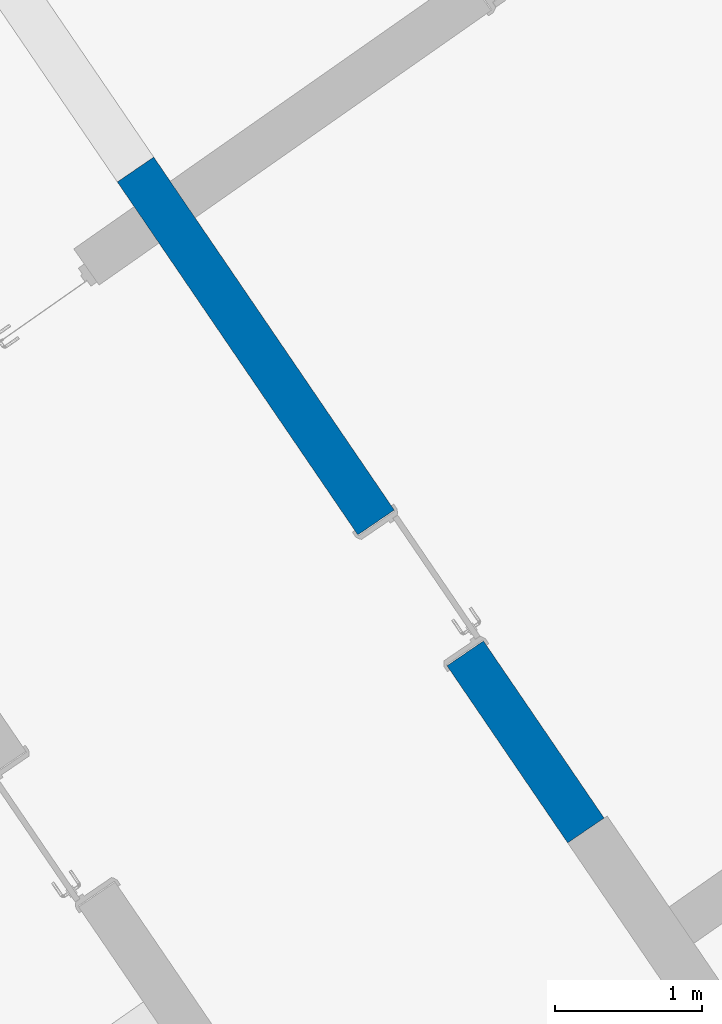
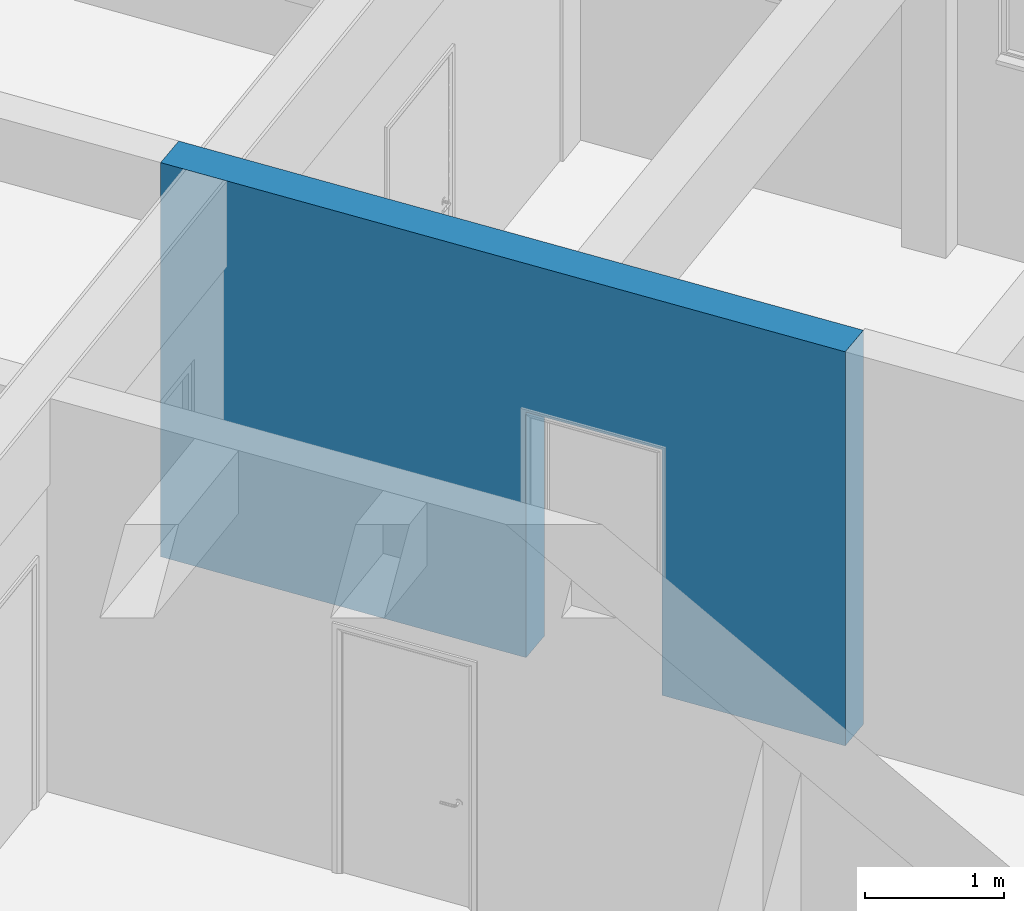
# One storey, part 63 of 112: 1 wall, 1 opening.
"""IFC2X3 building model written with IfcOpenShell, lengths in millimetres."""

from ifc_helpers import new_model, entity, si_unit, converted_unit, derived_unit, direction, frame, frame_2d, origin, place, context, subcontext, project, spatial, rectangle, extrude, material, layer, layer_set, layer_usage, type_object, element, save


model = new_model("IFC2X3")

# Units and contexts
model_context = context("Model", 3, precision=0.01, world=origin(), true_north=direction((6.123031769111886e-17, 1.0)))
body_context = subcontext(model_context, "Body", "Model", "MODEL_VIEW")
ifc_project = project(units=[si_unit("LENGTHUNIT", "METRE", prefix="MILLI"), si_unit("AREAUNIT", "SQUARE_METRE"), si_unit("VOLUMEUNIT", "CUBIC_METRE"), converted_unit("PLANEANGLEUNIT", "DEGREE", entity("IfcRatioMeasure", 0.017453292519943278), si_unit("PLANEANGLEUNIT", "RADIAN"), dimensions=[0, 0, 0, 0, 0, 0, 0]), si_unit("MASSUNIT", "GRAM", prefix="KILO"), derived_unit("MASSDENSITYUNIT", [(si_unit("MASSUNIT", "GRAM", prefix="KILO"), 1), (si_unit("LENGTHUNIT", "METRE"), -3)]), derived_unit("MOMENTOFINERTIAUNIT", [(si_unit("LENGTHUNIT", "METRE"), 4)]), si_unit("TIMEUNIT", "SECOND"), si_unit("FREQUENCYUNIT", "HERTZ"), si_unit("THERMODYNAMICTEMPERATUREUNIT", "DEGREE_CELSIUS"), derived_unit("THERMALTRANSMITTANCEUNIT", [(si_unit("MASSUNIT", "GRAM", prefix="KILO"), 1), (si_unit("THERMODYNAMICTEMPERATUREUNIT", "KELVIN"), -1), (si_unit("TIMEUNIT", "SECOND"), -3)]), derived_unit("THERMALCONDUCTANCEUNIT", [(si_unit("MASSUNIT", "GRAM", prefix="KILO"), 1), (si_unit("LENGTHUNIT", "METRE"), 1), (si_unit("THERMODYNAMICTEMPERATUREUNIT", "KELVIN"), -1), (si_unit("TIMEUNIT", "SECOND"), -3)]), derived_unit("VOLUMETRICFLOWRATEUNIT", [(si_unit("LENGTHUNIT", "METRE"), 3), (si_unit("TIMEUNIT", "SECOND"), -1)]), derived_unit("MASSFLOWRATEUNIT", [(si_unit("MASSUNIT", "GRAM", prefix="KILO"), 1), (si_unit("TIMEUNIT", "SECOND"), -1)]), derived_unit("ROTATIONALFREQUENCYUNIT", [(si_unit("TIMEUNIT", "SECOND"), -1)]), si_unit("ELECTRICCURRENTUNIT", "AMPERE"), si_unit("ELECTRICVOLTAGEUNIT", "VOLT"), si_unit("POWERUNIT", "WATT"), converted_unit("FORCEUNIT", "KIP", entity("IfcRatioMeasure", 2.088543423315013e-05), si_unit("FORCEUNIT", "NEWTON"), dimensions=[1, 1, -2, 0, 0, 0, 0]), si_unit("ILLUMINANCEUNIT", "LUX"), si_unit("LUMINOUSFLUXUNIT", "LUMEN"), si_unit("LUMINOUSINTENSITYUNIT", "CANDELA"), derived_unit("USERDEFINED", [(si_unit("MASSUNIT", "GRAM", prefix="KILO"), -1), (si_unit("LENGTHUNIT", "METRE"), -2), (si_unit("TIMEUNIT", "SECOND"), 3), (si_unit("LUMINOUSFLUXUNIT", "LUMEN"), 1)]), derived_unit("USERDEFINED", [(si_unit("MASSUNIT", "GRAM", prefix="KILO"), 1), (si_unit("LENGTHUNIT", "METRE"), 3), (si_unit("TIMEUNIT", "SECOND"), -3), (si_unit("ELECTRICCURRENTUNIT", "AMPERE"), -2)]), derived_unit("USERDEFINED", [(si_unit("LENGTHUNIT", "METRE"), 2), (si_unit("TIMEUNIT", "SECOND"), -2)]), derived_unit("SOUNDPOWERUNIT", [(si_unit("MASSUNIT", "GRAM", prefix="KILO"), 1), (si_unit("LENGTHUNIT", "METRE"), 2), (si_unit("TIMEUNIT", "SECOND"), -3)]), derived_unit("SOUNDPRESSUREUNIT", [(si_unit("MASSUNIT", "GRAM", prefix="KILO"), 1), (si_unit("LENGTHUNIT", "METRE"), -1), (si_unit("TIMEUNIT", "SECOND"), -2)]), derived_unit("LINEARVELOCITYUNIT", [(si_unit("LENGTHUNIT", "METRE"), 1), (si_unit("TIMEUNIT", "SECOND"), -1)]), si_unit("PRESSUREUNIT", "PASCAL"), derived_unit("USERDEFINED", [(si_unit("LENGTHUNIT", "METRE"), -2), (si_unit("MASSUNIT", "GRAM", prefix="KILO"), 1), (si_unit("TIMEUNIT", "SECOND"), -2)]), derived_unit("LINEARFORCEUNIT", [(si_unit("MASSUNIT", "GRAM", prefix="KILO"), 1), (si_unit("LENGTHUNIT", "METRE"), 1), (si_unit("TIMEUNIT", "SECOND"), -2), (si_unit("LENGTHUNIT", "METRE"), -1)]), derived_unit("PLANARFORCEUNIT", [(si_unit("MASSUNIT", "GRAM", prefix="KILO"), 1), (si_unit("LENGTHUNIT", "METRE"), 1), (si_unit("TIMEUNIT", "SECOND"), -2), (si_unit("LENGTHUNIT", "METRE"), -2)]), derived_unit("SPECIFICHEATCAPACITYUNIT", [(si_unit("LENGTHUNIT", "METRE"), 2), (si_unit("TIMEUNIT", "SECOND"), -2), (si_unit("THERMODYNAMICTEMPERATUREUNIT", "KELVIN"), -1)]), derived_unit("VAPORPERMEABILITYUNIT", [(si_unit("TIMEUNIT", "SECOND"), 1), (si_unit("LENGTHUNIT", "METRE"), -1)]), derived_unit("DYNAMICVISCOSITYUNIT", [(si_unit("MASSUNIT", "GRAM", prefix="KILO"), 1), (si_unit("LENGTHUNIT", "METRE"), -1), (si_unit("TIMEUNIT", "SECOND"), -1)]), derived_unit("THERMALEXPANSIONCOEFFICIENTUNIT", [(si_unit("THERMODYNAMICTEMPERATUREUNIT", "KELVIN"), -1)])], contexts=[model_context])

# Site, building, storey
site_placement = place(None, frame((0.0, 0.0, 0.0), z_axis=(0.0, 0.0, 1.0), x_axis=(0.8191520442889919, 0.5735764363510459, 0.0)))
site = spatial("IfcSite", under=ifc_project, at=site_placement, Name="Default", CompositionType="ELEMENT")
building_placement = place(site_placement, origin())
building = spatial("IfcBuilding", under=site, at=building_placement, CompositionType="ELEMENT")
storey_placement = place(building_placement, frame((0.0, 0.0, -3600.0)))
storey = spatial("IfcBuildingStorey", under=building, at=storey_placement, Name="0.UG -3.60", CompositionType="ELEMENT", Elevation=-3600.0000000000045)

# Wall, opening
ifc_material = material(Name="Analytical Wall Surface_CJC")
ifc_layer = layer(ifc_material, 300.0)
ifc_layer_set = layer_set([ifc_layer], Name="Basic Wall:Wand_Innen_30")
ifc_layer_usage = layer_usage(ifc_layer_set, "AXIS2", "POSITIVE", -150.0)
wall_type = type_object("IfcWallType", Name="Basic Wall:Wand_Innen_30", PredefinedType="STANDARD", material=ifc_layer_set)
wall_placement = place(storey_placement, frame((-210935.80557375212, 116598.58659219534, 0.0), z_axis=(0.0, 0.0, 1.0), x_axis=(0.012729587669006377, 0.9999189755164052, 0.0)))
wall = element("IfcWallStandardCase", 1, at=wall_placement, inside=storey, type_object=wall_type, material=ifc_layer_usage, Name="Basic Wall:Wand_Innen_30", ObjectType="Basic Wall:Wand_Innen_30", context=body_context, shape_type="SweptSolid", body=[
    extrude(rectangle(XDim=5450.123353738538, YDim=300.0000000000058, at=frame_2d((2725.061676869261, 4.504840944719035e-12), x_axis=(1.0, 0.0))), origin(), (0.0, 0.0, 1.0), 3450.0),
])
opening_placement = place(wall_placement, frame((2540.0, 150.0, 0.0)))
element("IfcOpeningElement", 2, at=opening_placement, cuts=wall, Name="Doors_IntSgl:100x210:1", ObjectType="Opening", context=body_context, shape_type="SweptSolid", body=[
    extrude(rectangle(XDim=2150.000000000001, YDim=1079.9999999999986, at=frame_2d((1075.0000000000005, 540.000000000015), x_axis=(1.0, 0.0))), frame((0.0, 0.0, 0.0), z_axis=(0.0, -1.0, 0.0), x_axis=(0.0, 0.0, 1.0)), (0.0, 0.0, 1.0), 299.9999999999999),
])

save(model, "model.ifc")
